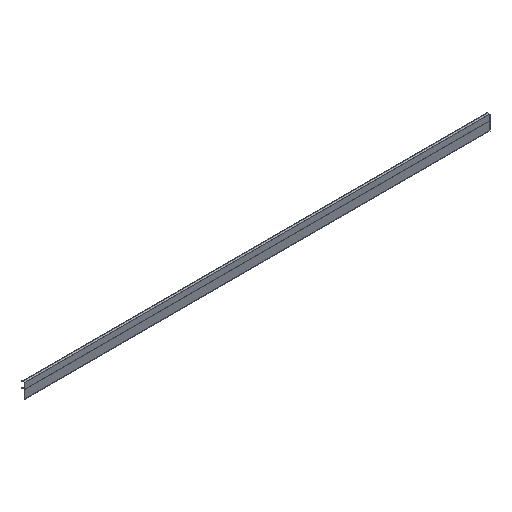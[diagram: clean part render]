
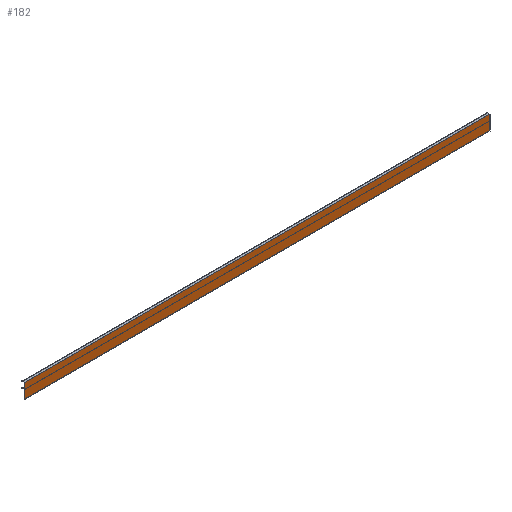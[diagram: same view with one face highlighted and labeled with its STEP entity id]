
A CAD part, isometric view. The second image highlights one B-rep face of the part: STEP entity #182.
In plain terms, the highlighted planar face has unit normal (0, -1, 0).
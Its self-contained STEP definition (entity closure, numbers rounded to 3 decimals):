
#182=ADVANCED_FACE('',(#372),#373,.T.);
#372=FACE_OUTER_BOUND('',#563,.T.);
#373=PLANE('',#564);
#563=EDGE_LOOP('',(#1053,#1054,#1055,#1056));
#564=AXIS2_PLACEMENT_3D('',#1057,#1058,#1059);
#1053=ORIENTED_EDGE('',*,*,#1317,.T.);
#1054=ORIENTED_EDGE('',*,*,#1347,.F.);
#1055=ORIENTED_EDGE('',*,*,#1348,.F.);
#1056=ORIENTED_EDGE('',*,*,#1344,.T.);
#1057=CARTESIAN_POINT('',(0.0,-15.5,0.0));
#1058=DIRECTION('',(0.0,-1.0,0.0));
#1059=DIRECTION('',(0.0,0.0,-1.0));
#1317=EDGE_CURVE('',#1618,#1616,#1619,.T.);
#1344=EDGE_CURVE('',#1660,#1618,#1661,.T.);
#1347=EDGE_CURVE('',#1664,#1616,#1665,.T.);
#1348=EDGE_CURVE('',#1660,#1664,#1666,.T.);
#1616=VERTEX_POINT('',#2019);
#1618=VERTEX_POINT('',#2022);
#1619=LINE('',#2023,#2024);
#1660=VERTEX_POINT('',#2085);
#1661=LINE('',#2086,#2087);
#1664=VERTEX_POINT('',#2091);
#1665=LINE('',#2092,#2093);
#1666=LINE('',#2094,#2095);
#2019=CARTESIAN_POINT('',(2500.0,-15.5,0.0));
#2022=CARTESIAN_POINT('',(2500.0,-15.5,-79.0));
#2023=CARTESIAN_POINT('',(2500.0,-15.5,-15.25));
#2024=VECTOR('',#2346,1.0);
#2085=CARTESIAN_POINT('',(0.0,-15.5,-79.0));
#2086=CARTESIAN_POINT('',(0.0,-15.5,-79.0));
#2087=VECTOR('',#2367,1.0);
#2091=CARTESIAN_POINT('',(0.0,-15.5,0.0));
#2092=CARTESIAN_POINT('',(0.0,-15.5,0.0));
#2093=VECTOR('',#2369,1.0);
#2094=CARTESIAN_POINT('',(0.0,-15.5,-61.0));
#2095=VECTOR('',#2370,1.0);
#2346=DIRECTION('',(0.0,0.0,1.0));
#2367=DIRECTION('',(1.0,0.0,0.0));
#2369=DIRECTION('',(1.0,0.0,0.0));
#2370=DIRECTION('',(0.0,0.0,1.0));
